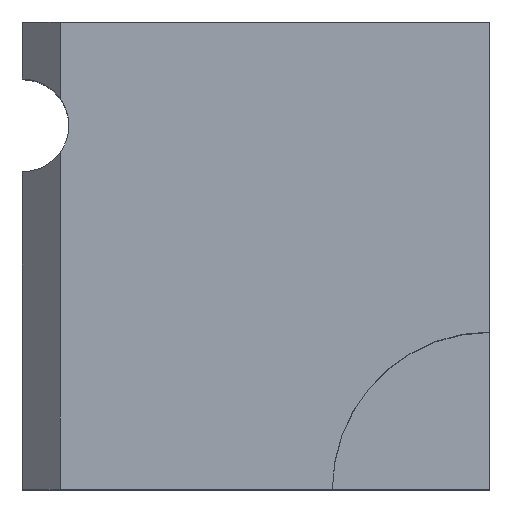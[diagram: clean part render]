
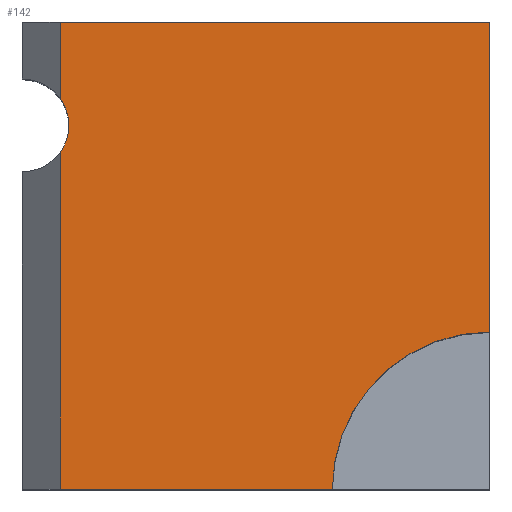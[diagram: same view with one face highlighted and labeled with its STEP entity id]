
A CAD part, top view. The second image highlights one B-rep face of the part: STEP entity #142.
In plain terms, the highlighted planar face has unit normal (0, 0, 1).
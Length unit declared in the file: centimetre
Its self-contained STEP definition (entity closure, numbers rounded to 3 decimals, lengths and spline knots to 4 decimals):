
#3 = AXIS2_PLACEMENT_3D ( 'NONE', #449, #46, #225 ) ;
#7 = LINE ( 'NONE', #501, #170 ) ;
#26 = EDGE_CURVE ( 'NONE', #223, #343, #307, .T. ) ;
#28 = CARTESIAN_POINT ( 'NONE',  ( 1000., 1000., 1000. ) ) ;
#45 = EDGE_CURVE ( 'NONE', #479, #132, #341, .T. ) ;
#46 = DIRECTION ( 'NONE',  ( 0., 0., -1. ) ) ;
#48 = VECTOR ( 'NONE', #330, 100. ) ;
#49 = ORIENTED_EDGE ( 'NONE', *, *, #26, .T. ) ;
#51 = DIRECTION ( 'NONE',  ( 1., 0., 0. ) ) ;
#57 = VECTOR ( 'NONE', #532, 100. ) ;
#59 = DIRECTION ( 'NONE',  ( 0., 0., 1. ) ) ;
#69 = ORIENTED_EDGE ( 'NONE', *, *, #504, .T. ) ;
#77 = ORIENTED_EDGE ( 'NONE', *, *, #425, .T. ) ;
#88 = DIRECTION ( 'NONE',  ( -1., 0., 0. ) ) ;
#93 = DIRECTION ( 'NONE',  ( 0., -1., 0. ) ) ;
#121 = CIRCLE ( 'NONE', #496, 336.547 ) ;
#131 = VERTEX_POINT ( 'NONE', #374 ) ;
#132 = VERTEX_POINT ( 'NONE', #465 ) ;
#134 = CARTESIAN_POINT ( 'NONE',  ( 80.9879, 721.0513, 1000. ) ) ;
#142 = ADVANCED_FACE ( 'NONE', ( #506 ), #282, .T. ) ;
#170 = VECTOR ( 'NONE', #93, 100. ) ;
#219 = DIRECTION ( 'NONE',  ( 1., 0., 0. ) ) ;
#223 = VERTEX_POINT ( 'NONE', #28 ) ;
#225 = DIRECTION ( 'NONE',  ( -1., 0., 0. ) ) ;
#235 = DIRECTION ( 'NONE',  ( 1., 0., 0. ) ) ;
#240 = CARTESIAN_POINT ( 'NONE',  ( 1000., 1000., 1000. ) ) ;
#249 = ORIENTED_EDGE ( 'NONE', *, *, #547, .F. ) ;
#259 = EDGE_CURVE ( 'NONE', #563, #223, #371, .T. ) ;
#282 = PLANE ( 'NONE',  #452 ) ;
#295 = ORIENTED_EDGE ( 'NONE', *, *, #45, .T. ) ;
#307 = LINE ( 'NONE', #345, #561 ) ;
#315 = DIRECTION ( 'NONE',  ( 0., 0., 1. ) ) ;
#330 = DIRECTION ( 'NONE',  ( 0., 1., 0. ) ) ;
#341 = LINE ( 'NONE', #394, #57 ) ;
#343 = VERTEX_POINT ( 'NONE', #514 ) ;
#345 = CARTESIAN_POINT ( 'NONE',  ( 0., 1000., 1000. ) ) ;
#371 = LINE ( 'NONE', #240, #48 ) ;
#374 = CARTESIAN_POINT ( 'NONE',  ( 663.453, 0., 1000. ) ) ;
#394 = CARTESIAN_POINT ( 'NONE',  ( 80.9879, 0., 1000. ) ) ;
#395 = ORIENTED_EDGE ( 'NONE', *, *, #259, .T. ) ;
#401 = CIRCLE ( 'NONE', #3, 99.4125 ) ;
#425 = EDGE_CURVE ( 'NONE', #132, #131, #538, .T. ) ;
#427 = VECTOR ( 'NONE', #219, 100. ) ;
#438 = EDGE_LOOP ( 'NONE', ( #69, #295, #77, #249, #395, #49, #573 ) ) ;
#443 = CARTESIAN_POINT ( 'NONE',  ( 0., 0., 1000. ) ) ;
#449 = CARTESIAN_POINT ( 'NONE',  ( 0., 778.7036, 1000. ) ) ;
#452 = AXIS2_PLACEMENT_3D ( 'NONE', #462, #59, #235 ) ;
#462 = CARTESIAN_POINT ( 'NONE',  ( 0., 0., 1000. ) ) ;
#465 = CARTESIAN_POINT ( 'NONE',  ( 80.9879, 0., 1000. ) ) ;
#473 = VERTEX_POINT ( 'NONE', #533 ) ;
#479 = VERTEX_POINT ( 'NONE', #134 ) ;
#496 = AXIS2_PLACEMENT_3D ( 'NONE', #541, #315, #51 ) ;
#501 = CARTESIAN_POINT ( 'NONE',  ( 80.9879, 0., 1000. ) ) ;
#504 = EDGE_CURVE ( 'NONE', #473, #479, #401, .T. ) ;
#506 = FACE_OUTER_BOUND ( 'NONE', #438, .T. ) ;
#509 = EDGE_CURVE ( 'NONE', #343, #473, #7, .T. ) ;
#514 = CARTESIAN_POINT ( 'NONE',  ( 80.9879, 1000., 1000. ) ) ;
#532 = DIRECTION ( 'NONE',  ( 0., -1., 0. ) ) ;
#533 = CARTESIAN_POINT ( 'NONE',  ( 80.9879, 836.356, 1000. ) ) ;
#538 = LINE ( 'NONE', #443, #427 ) ;
#541 = CARTESIAN_POINT ( 'NONE',  ( 1000., 0., 1000. ) ) ;
#545 = CARTESIAN_POINT ( 'NONE',  ( 1000., 336.547, 1000. ) ) ;
#547 = EDGE_CURVE ( 'NONE', #563, #131, #121, .T. ) ;
#561 = VECTOR ( 'NONE', #88, 100. ) ;
#563 = VERTEX_POINT ( 'NONE', #545 ) ;
#573 = ORIENTED_EDGE ( 'NONE', *, *, #509, .T. ) ;
